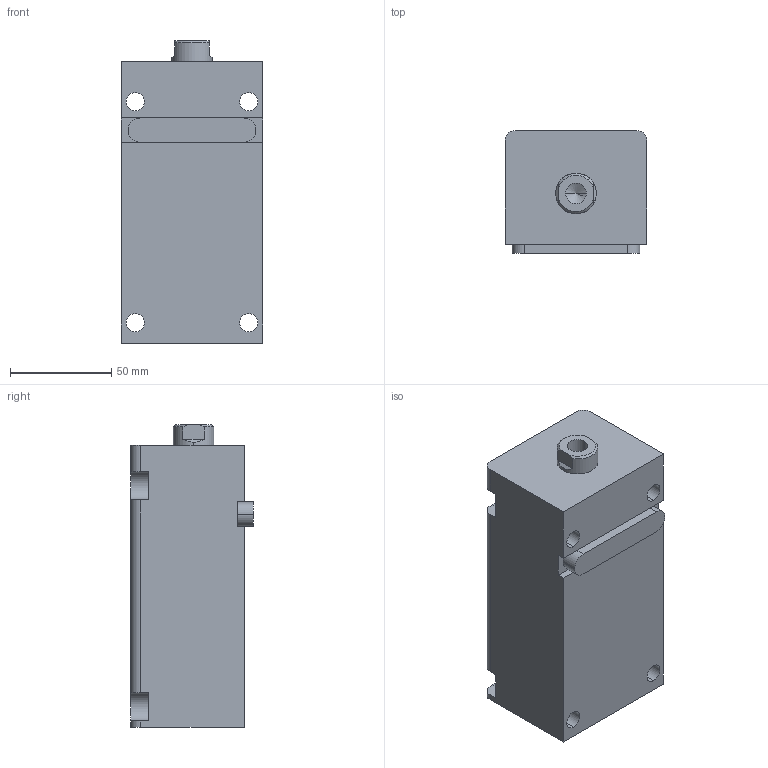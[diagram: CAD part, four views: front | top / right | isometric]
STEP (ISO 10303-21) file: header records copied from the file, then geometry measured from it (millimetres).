
FILE_DESCRIPTION (( 'STEP AP203' ), '1' );
FILE_NAME ('HTB-LA32-85N.STEP', '2019-10-09T06:31:35', ( '微软用户' ), ( '微软中国' ), 'SwSTEP 2.0', 'SolidWorks 2012', '' );
FILE_SCHEMA (( 'CONFIG_CONTROL_DESIGN' ));
Length unit declared in the file: millimetre
Products named in the file (4): HTB-LA32-85掛极; HTB-LA32-85N活塞杆; HTB-LA32-瑩; HTB-LA32-85N
Assembly tree (3 placements, depth 2):
  HTB-LA32-85N
    HTB-LA32-85掛极
    HTB-LA32-85N活塞杆
    HTB-LA32-瑩
Bounding box: 70 x 60.5 x 149 mm (x, y, z)
Volume: 486278.1 mm3; surface area: 75940.6 mm2
Topology: 3 solids, 3 shells, 88 faces, 217 edges, 141 vertices
Faces by surface type: plane 39, cylinder 35, cone 8, torus 6
Entity records: 3053 total; most frequent: DIRECTION 487, CARTESIAN_POINT 478, ORIENTED_EDGE 430, EDGE_CURVE 215, AXIS2_PLACEMENT_3D 186, VERTEX_POINT 141, LINE 115, VECTOR 115
